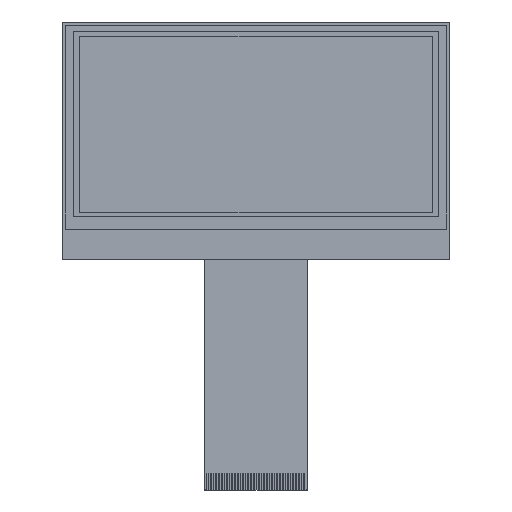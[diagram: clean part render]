
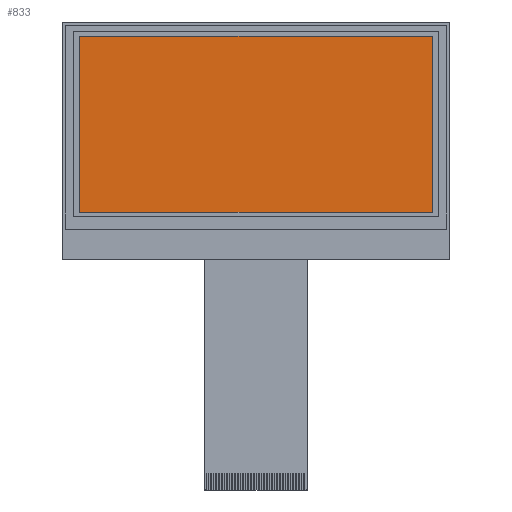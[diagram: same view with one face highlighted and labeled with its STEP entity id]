
A CAD part, top view. The second image highlights one B-rep face of the part: STEP entity #833.
In plain terms, the highlighted planar face has unit normal (0, 0, 1).
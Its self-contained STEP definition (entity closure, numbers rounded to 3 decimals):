
#833=ADVANCED_FACE('',(#1796),#1797,.T.);
#1796=FACE_OUTER_BOUND('',#3147,.T.);
#1797=PLANE('',#3148);
#3147=EDGE_LOOP('',(#4450,#4451,#4452,#4453));
#3148=AXIS2_PLACEMENT_3D('',#4454,#4455,#4456);
#4450=ORIENTED_EDGE('',*,*,#7466,.T.);
#4451=ORIENTED_EDGE('',*,*,#7467,.T.);
#4452=ORIENTED_EDGE('',*,*,#7468,.T.);
#4453=ORIENTED_EDGE('',*,*,#7469,.T.);
#4454=CARTESIAN_POINT('',(30.255,-15.945,0.25));
#4455=DIRECTION('',(0.0,0.0,1.0));
#4456=DIRECTION('',(1.0,0.0,0.0));
#7466=EDGE_CURVE('',#8766,#8767,#8768,.T.);
#7467=EDGE_CURVE('',#8767,#8769,#8770,.T.);
#7468=EDGE_CURVE('',#8769,#8771,#8772,.T.);
#7469=EDGE_CURVE('',#8771,#8766,#8773,.T.);
#8766=VERTEX_POINT('',#10658);
#8767=VERTEX_POINT('',#10659);
#8768=LINE('',#10660,#10661);
#8769=VERTEX_POINT('',#10662);
#8770=LINE('',#10663,#10664);
#8771=VERTEX_POINT('',#10665);
#8772=LINE('',#10666,#10667);
#8773=LINE('',#10668,#10669);
#10658=CARTESIAN_POINT('',(57.76,-29.69,0.25));
#10659=CARTESIAN_POINT('',(57.76,-2.2,0.25));
#10660=CARTESIAN_POINT('',(57.76,-15.945,0.25));
#10661=VECTOR('',#13171,1.0);
#10662=CARTESIAN_POINT('',(2.75,-2.2,0.25));
#10663=CARTESIAN_POINT('',(30.255,-2.2,0.25));
#10664=VECTOR('',#13172,1.0);
#10665=CARTESIAN_POINT('',(2.75,-29.69,0.25));
#10666=CARTESIAN_POINT('',(2.75,-15.945,0.25));
#10667=VECTOR('',#13173,1.0);
#10668=CARTESIAN_POINT('',(30.255,-29.69,0.25));
#10669=VECTOR('',#13174,1.0);
#13171=DIRECTION('',(0.0,1.0,0.0));
#13172=DIRECTION('',(-1.0,0.0,0.0));
#13173=DIRECTION('',(0.0,-1.0,0.0));
#13174=DIRECTION('',(1.0,0.0,0.0));
